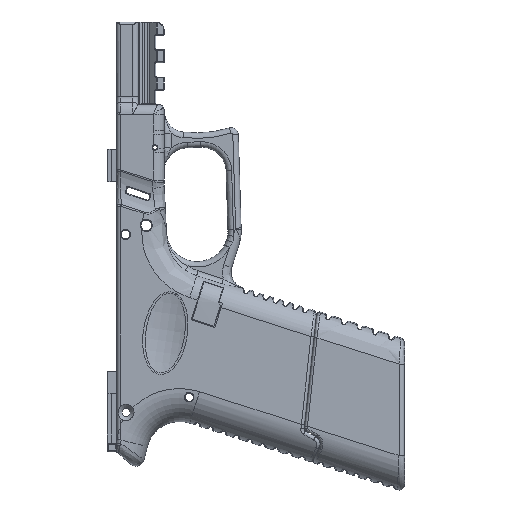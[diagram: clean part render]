
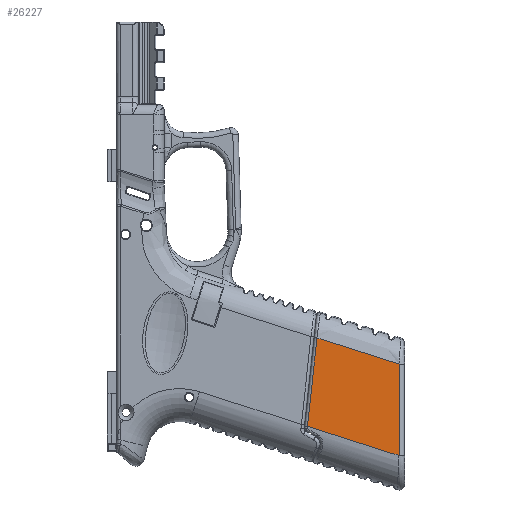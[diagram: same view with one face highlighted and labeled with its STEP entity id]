
A CAD part, left-side view. The second image highlights one B-rep face of the part: STEP entity #26227.
In plain terms, the highlighted planar face has unit normal (-1, 0, 0).
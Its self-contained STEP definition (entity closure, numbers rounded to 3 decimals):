
#2314=PLANE('',#28166);
#2913=LINE('',#40446,#4318);
#2929=LINE('',#40788,#4334);
#2965=LINE('',#41473,#4370);
#2978=LINE('',#41890,#4383);
#4318=VECTOR('',#31341,10.);
#4334=VECTOR('',#31415,12.);
#4370=VECTOR('',#31539,10.);
#4383=VECTOR('',#31572,10.);
#6243=FACE_OUTER_BOUND('',#8008,.T.);
#8008=EDGE_LOOP('',(#18631,#18632,#18633,#18634));
#11200=VERTEX_POINT('',#40440);
#11201=VERTEX_POINT('',#40444);
#11240=VERTEX_POINT('',#40787);
#11307=VERTEX_POINT('',#41471);
#13780=EDGE_CURVE('',#11201,#11200,#2913,.T.);
#13830=EDGE_CURVE('',#11200,#11240,#2929,.T.);
#13927=EDGE_CURVE('',#11240,#11307,#2965,.T.);
#13981=EDGE_CURVE('',#11307,#11201,#2978,.T.);
#18631=ORIENTED_EDGE('',*,*,#13780,.F.);
#18632=ORIENTED_EDGE('',*,*,#13981,.F.);
#18633=ORIENTED_EDGE('',*,*,#13927,.F.);
#18634=ORIENTED_EDGE('',*,*,#13830,.F.);
#26227=ADVANCED_FACE('',(#6243),#2314,.T.);
#28166=AXIS2_PLACEMENT_3D('',#41891,#31573,#31574);
#31341=DIRECTION('',(0.,0.,-1.));
#31415=DIRECTION('',(0.,0.952,0.305));
#31539=DIRECTION('',(0.,-0.108,0.994));
#31572=DIRECTION('',(0.,-0.952,-0.306));
#31573=DIRECTION('center_axis',(-1.,0.,0.));
#31574=DIRECTION('ref_axis',(0.,0.108,-0.994));
#40440=CARTESIAN_POINT('',(-14.605,-102.645,-157.565));
#40444=CARTESIAN_POINT('',(-14.605,-102.645,-124.365));
#40446=CARTESIAN_POINT('',(-14.605,-102.645,-142.606));
#40787=CARTESIAN_POINT('',(-14.605,-69.363,-146.905));
#40788=CARTESIAN_POINT('',(-14.605,-85.275,-152.002));
#41471=CARTESIAN_POINT('',(-14.605,-72.838,-114.795));
#41473=CARTESIAN_POINT('',(-14.605,-72.22,-120.507));
#41890=CARTESIAN_POINT('',(-14.605,-71.623,-114.405));
#41891=CARTESIAN_POINT('Origin',(-14.605,-71.623,-114.405));
